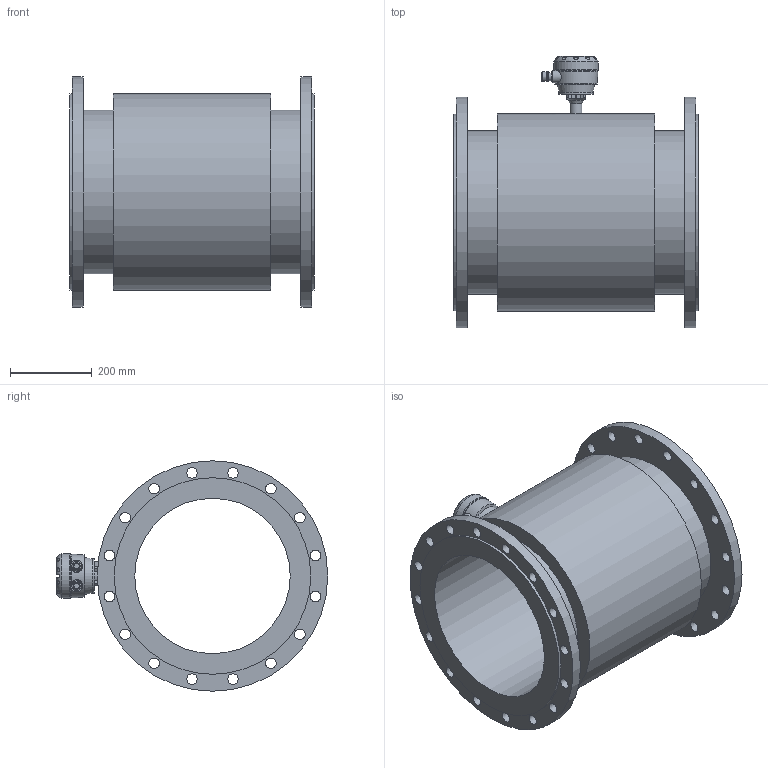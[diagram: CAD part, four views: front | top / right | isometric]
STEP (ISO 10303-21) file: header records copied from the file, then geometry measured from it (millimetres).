
FILE_DESCRIPTION (( 'STEP AP203' ), '1' );
FILE_NAME ('KROHNE_OPTIFLUX_2-4000W-WATERFLUX_3000F_DIN2632_DN400_PN10.STEP', '2011-04-26T11:23:08', ( '' ), ( '' ), 'SwSTEP 2.0', 'SolidWorks 2010', '' );
FILE_SCHEMA (( 'CONFIG_CONTROL_DESIGN' ));
Length unit declared in the file: millimetre
Products named in the file (1): KROHNE_OPTIFLUX_2-4000W-WATERFLUX_3000F_DIN2632_DN400_PN10
Bounding box: 600 x 665.49 x 565 mm (x, y, z)
Volume: 36962955.6 mm3; surface area: 2377123.4 mm2
Topology: 14 solids, 14 shells, 359 faces, 899 edges, 590 vertices
Faces by surface type: plane 158, cylinder 111, bspline 53, torus 18, sphere 13, cone 6
Full cylindrical faces by diameter (mm): 4 x4, 6.6 x8, 13 x2, 20 x2, 23.5 x4, 26 x32, 29 x1, 30 x2, 84 x2, 109 x1, 381 x1, 401 x2, 482 x2, 483 x1, 565 x2
Entity records: 14523 total; most frequent: CARTESIAN_POINT 6576, ORIENTED_EDGE 1522, DIRECTION 1509, EDGE_CURVE 761, AXIS2_PLACEMENT_3D 573, EDGE_LOOP 566, VERTEX_POINT 545, FACE_OUTER_BOUND 442
